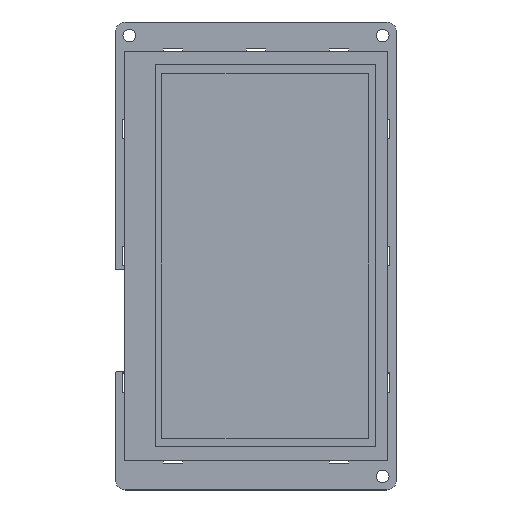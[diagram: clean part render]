
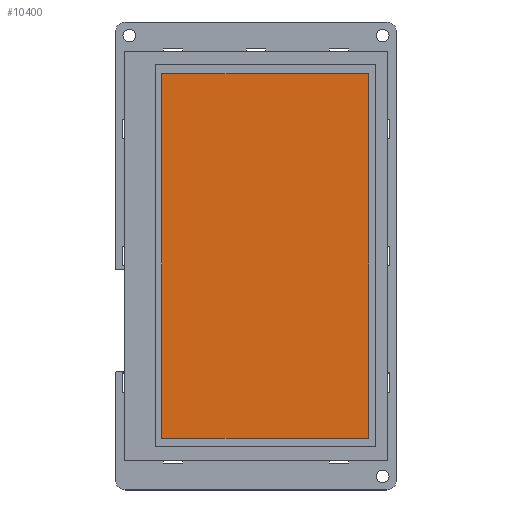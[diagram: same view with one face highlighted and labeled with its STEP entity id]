
A CAD part, top view. The second image highlights one B-rep face of the part: STEP entity #10400.
In plain terms, the highlighted planar face has unit normal (0, 0, 1).
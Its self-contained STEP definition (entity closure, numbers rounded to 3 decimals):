
#3144=DIRECTION('',(0.,1.,0.));
#3145=VECTOR('',#3144,95.04);
#3146=CARTESIAN_POINT('',(29.312,-47.525,6.05));
#3147=LINE('',#3146,#3145);
#3148=DIRECTION('',(1.,0.,0.));
#3149=VECTOR('',#3148,53.86);
#3150=CARTESIAN_POINT('',(-24.548,-47.525,6.05));
#3151=LINE('',#3150,#3149);
#3152=DIRECTION('',(0.,-1.,0.));
#3153=VECTOR('',#3152,95.04);
#3154=CARTESIAN_POINT('',(-24.548,47.515,6.05));
#3155=LINE('',#3154,#3153);
#3156=DIRECTION('',(-1.,0.,0.));
#3157=VECTOR('',#3156,53.86);
#3158=CARTESIAN_POINT('',(29.312,47.515,6.05));
#3159=LINE('',#3158,#3157);
#3568=CARTESIAN_POINT('',(29.312,-47.525,6.05));
#3569=CARTESIAN_POINT('',(29.312,47.515,6.05));
#3570=VERTEX_POINT('',#3568);
#3571=VERTEX_POINT('',#3569);
#3572=CARTESIAN_POINT('',(-24.548,47.515,6.05));
#3573=VERTEX_POINT('',#3572);
#3574=CARTESIAN_POINT('',(-24.548,-47.525,6.05));
#3575=VERTEX_POINT('',#3574);
#10389=CARTESIAN_POINT('',(2.382,-0.005,6.05));
#10390=DIRECTION('',(0.,0.,1.));
#10391=DIRECTION('',(0.,-1.,0.));
#10392=AXIS2_PLACEMENT_3D('',#10389,#10390,#10391);
#10393=PLANE('',#10392);
#10394=ORIENTED_EDGE('',*,*,#10341,.F.);
#10395=ORIENTED_EDGE('',*,*,#10356,.F.);
#10396=ORIENTED_EDGE('',*,*,#10370,.F.);
#10397=ORIENTED_EDGE('',*,*,#10383,.F.);
#10398=EDGE_LOOP('',(#10394,#10395,#10396,#10397));
#10399=FACE_OUTER_BOUND('',#10398,.F.);
#10341=EDGE_CURVE('',#3570,#3571,#3147,.T.);
#10356=EDGE_CURVE('',#3575,#3570,#3151,.T.);
#10370=EDGE_CURVE('',#3573,#3575,#3155,.T.);
#10383=EDGE_CURVE('',#3571,#3573,#3159,.T.);
#10400=ADVANCED_FACE('',(#10399),#10393,.T.);
